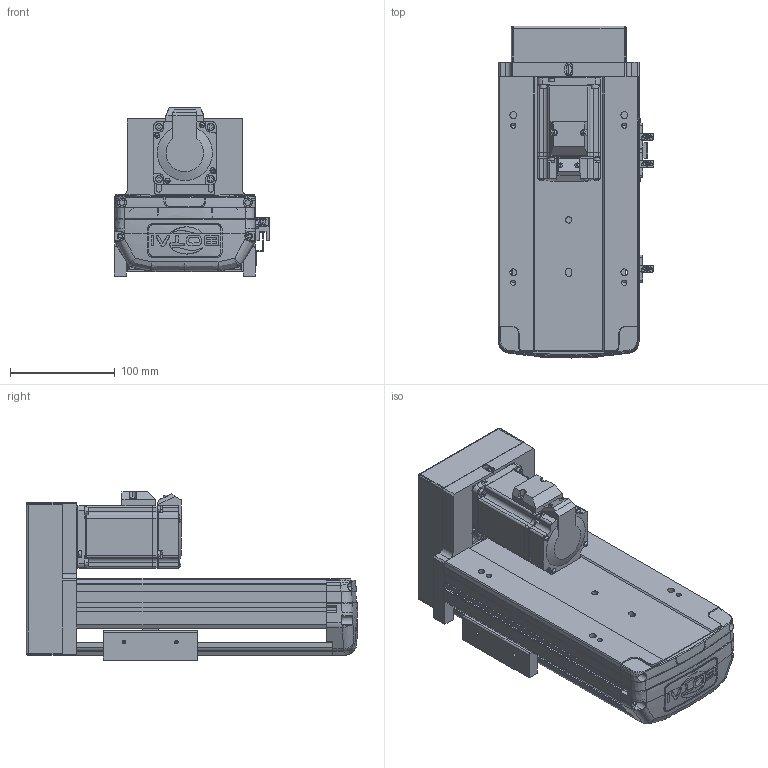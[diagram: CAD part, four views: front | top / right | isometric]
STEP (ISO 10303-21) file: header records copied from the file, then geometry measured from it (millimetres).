
FILE_DESCRIPTION (( 'STEP AP203' ), '1' );
FILE_NAME ('2.STEP', '2020-11-07T00:59:30', ( '' ), ( '' ), 'SwSTEP 2.0', 'SolidWorks 2016', '' );
FILE_SCHEMA (( 'CONFIG_CONTROL_DESIGN' ));
Length unit declared in the file: millimetre
Products named in the file (10): 2; BTH13-BM-P20; BTH13-BM-04; BTH13-BM-02; BTH13-BM-01; BTH13-BM-20; BTH13-BM-HZ; BTH13-BM-06; BTH13-BM-03; BTH13-BL-BM-BR-菁釱
Assembly tree (11 placements, depth 2):
  2
    BTH13-BL-BM-BR-菁釱
    BTH13-BM-01
    BTH13-BM-02
    BTH13-BM-03
    BTH13-BM-04  x3
    BTH13-BM-06
    BTH13-BM-HZ
    BTH13-BM-P20
    BTH13-BM-20
Bounding box: 148.7 x 316.71 x 160.5 mm (x, y, z)
Volume: 1724890.9 mm3; surface area: 444871.8 mm2
Topology: 12 solids, 12 shells, 1815 faces, 4899 edges, 3171 vertices
Faces by surface type: plane 996, cylinder 491, bspline 201, cone 94, torus 33
Entity records: 60857 total; most frequent: CARTESIAN_POINT 21399, ORIENTED_EDGE 8458, DIRECTION 7352, EDGE_CURVE 4229, VERTEX_POINT 2747, LINE 2452, VECTOR 2452, AXIS2_PLACEMENT_3D 2450
